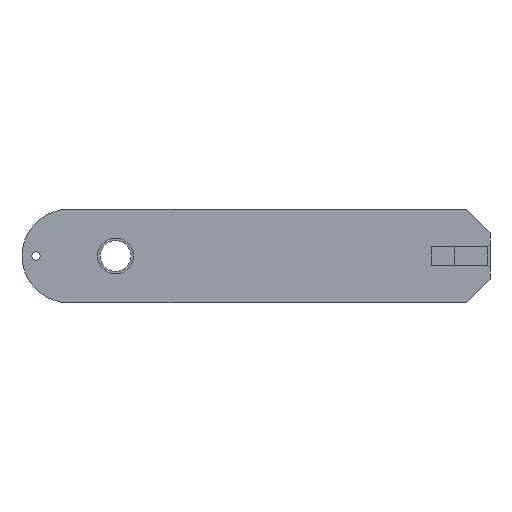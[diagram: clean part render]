
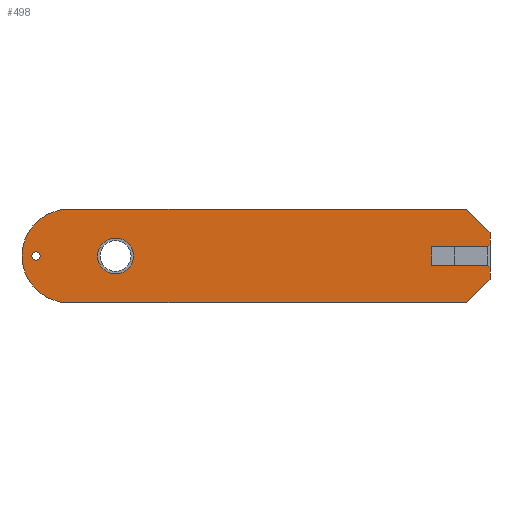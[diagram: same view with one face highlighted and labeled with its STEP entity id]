
A CAD part, front view. The second image highlights one B-rep face of the part: STEP entity #498.
In plain terms, the highlighted planar face has unit normal (0, -1, 0).
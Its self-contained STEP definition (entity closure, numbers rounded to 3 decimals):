
#22 = CARTESIAN_POINT ( 'NONE',  ( 90., 0., 20. ) ) ;
#38 = EDGE_CURVE ( 'NONE', #1693, #1271, #1903, .T. ) ;
#47 = VECTOR ( 'NONE', #243, 1000. ) ;
#56 = EDGE_CURVE ( 'NONE', #1518, #957, #1302, .T. ) ;
#72 = CARTESIAN_POINT ( 'NONE',  ( 75., 0., -4. ) ) ;
#87 = VERTEX_POINT ( 'NONE', #1773 ) ;
#90 = CARTESIAN_POINT ( 'NONE',  ( -60., 0., 0. ) ) ;
#104 = ORIENTED_EDGE ( 'NONE', *, *, #1515, .F. ) ;
#110 = VECTOR ( 'NONE', #1519, 1000. ) ;
#154 = EDGE_CURVE ( 'NONE', #672, #1311, #503, .T. ) ;
#167 = EDGE_CURVE ( 'NONE', #1152, #1898, #678, .T. ) ;
#172 = EDGE_LOOP ( 'NONE', ( #1912, #1774, #581, #330, #1681, #786, #1048, #1394, #192, #1688, #1105, #104, #496 ) ) ;
#182 = DIRECTION ( 'NONE',  ( -0.707, 0., 0.707 ) ) ;
#192 = ORIENTED_EDGE ( 'NONE', *, *, #591, .F. ) ;
#197 = AXIS2_PLACEMENT_3D ( 'NONE', #90, #818, #1850 ) ;
#206 = VECTOR ( 'NONE', #182, 1000. ) ;
#211 = LINE ( 'NONE', #742, #1046 ) ;
#239 = EDGE_CURVE ( 'NONE', #87, #1518, #681, .T. ) ;
#241 = AXIS2_PLACEMENT_3D ( 'NONE', #1374, #799, #941 ) ;
#243 = DIRECTION ( 'NONE',  ( -1., 0., 0. ) ) ;
#259 = DIRECTION ( 'NONE',  ( 0., 0., -1. ) ) ;
#269 = EDGE_CURVE ( 'NONE', #331, #1628, #1838, .T. ) ;
#271 = EDGE_LOOP ( 'NONE', ( #1258, #770 ) ) ;
#274 = CARTESIAN_POINT ( 'NONE',  ( 100., 0., -5. ) ) ;
#275 = DIRECTION ( 'NONE',  ( 0., 1., 0. ) ) ;
#290 = VERTEX_POINT ( 'NONE', #390 ) ;
#330 = ORIENTED_EDGE ( 'NONE', *, *, #901, .F. ) ;
#331 = VERTEX_POINT ( 'NONE', #848 ) ;
#390 = CARTESIAN_POINT ( 'NONE',  ( 100., 0., 5. ) ) ;
#427 = EDGE_CURVE ( 'NONE', #1628, #331, #1286, .T. ) ;
#440 = DIRECTION ( 'NONE',  ( 0., 0., 1. ) ) ;
#441 = EDGE_CURVE ( 'NONE', #708, #290, #1506, .T. ) ;
#445 = DIRECTION ( 'NONE',  ( 1., 0., 0. ) ) ;
#450 = VERTEX_POINT ( 'NONE', #1754 ) ;
#462 = CARTESIAN_POINT ( 'NONE',  ( -100., 0., 20. ) ) ;
#486 = CARTESIAN_POINT ( 'NONE',  ( 100., 0., 10. ) ) ;
#496 = ORIENTED_EDGE ( 'NONE', *, *, #167, .T. ) ;
#498 = ADVANCED_FACE ( 'NONE', ( #892, #1573, #1183 ), #1895, .F. ) ;
#503 = LINE ( 'NONE', #1083, #110 ) ;
#522 = DIRECTION ( 'NONE',  ( 0., 0., -1. ) ) ;
#541 = CARTESIAN_POINT ( 'NONE',  ( -100., 0., -20. ) ) ;
#581 = ORIENTED_EDGE ( 'NONE', *, *, #877, .F. ) ;
#589 = VECTOR ( 'NONE', #1014, 1000. ) ;
#591 = EDGE_CURVE ( 'NONE', #87, #628, #1000, .T. ) ;
#598 = DIRECTION ( 'NONE',  ( 0.707, 0., 0.707 ) ) ;
#628 = VERTEX_POINT ( 'NONE', #22 ) ;
#631 = ORIENTED_EDGE ( 'NONE', *, *, #1277, .F. ) ;
#636 = CIRCLE ( 'NONE', #1079, 7.65 ) ;
#672 = VERTEX_POINT ( 'NONE', #1367 ) ;
#678 = LINE ( 'NONE', #1473, #1397 ) ;
#680 = VECTOR ( 'NONE', #1094, 1000. ) ;
#681 = CIRCLE ( 'NONE', #241, 20. ) ;
#696 = CARTESIAN_POINT ( 'NONE',  ( -60., 0., -7.65 ) ) ;
#697 = CARTESIAN_POINT ( 'NONE',  ( -94., 0., 1.8 ) ) ;
#708 = VERTEX_POINT ( 'NONE', #486 ) ;
#729 = CARTESIAN_POINT ( 'NONE',  ( -94., 0., 0. ) ) ;
#734 = CARTESIAN_POINT ( 'NONE',  ( 100., 0., -5. ) ) ;
#742 = CARTESIAN_POINT ( 'NONE',  ( 100., 0., 10. ) ) ;
#770 = ORIENTED_EDGE ( 'NONE', *, *, #269, .T. ) ;
#784 = CIRCLE ( 'NONE', #197, 7.65 ) ;
#786 = ORIENTED_EDGE ( 'NONE', *, *, #1829, .T. ) ;
#787 = EDGE_LOOP ( 'NONE', ( #631, #1032 ) ) ;
#799 = DIRECTION ( 'NONE',  ( 0., -1., 0. ) ) ;
#818 = DIRECTION ( 'NONE',  ( 0., -1., 0. ) ) ;
#848 = CARTESIAN_POINT ( 'NONE',  ( -94., 0., -1.8 ) ) ;
#877 = EDGE_CURVE ( 'NONE', #1637, #1271, #1412, .T. ) ;
#884 = CARTESIAN_POINT ( 'NONE',  ( 0., 0., 0. ) ) ;
#892 = FACE_BOUND ( 'NONE', #271, .T. ) ;
#901 = EDGE_CURVE ( 'NONE', #1311, #1637, #1454, .T. ) ;
#941 = DIRECTION ( 'NONE',  ( 0., 0., 1. ) ) ;
#957 = VERTEX_POINT ( 'NONE', #978 ) ;
#964 = VERTEX_POINT ( 'NONE', #696 ) ;
#966 = CARTESIAN_POINT ( 'NONE',  ( 100., 0., -4. ) ) ;
#978 = CARTESIAN_POINT ( 'NONE',  ( -80., 0., -20. ) ) ;
#995 = AXIS2_PLACEMENT_3D ( 'NONE', #1250, #1565, #1418 ) ;
#1000 = LINE ( 'NONE', #462, #1742 ) ;
#1005 = AXIS2_PLACEMENT_3D ( 'NONE', #1186, #1024, #440 ) ;
#1014 = DIRECTION ( 'NONE',  ( 0., 0., -1. ) ) ;
#1024 = DIRECTION ( 'NONE',  ( 0., -1., 0. ) ) ;
#1025 = CARTESIAN_POINT ( 'NONE',  ( 90., 0., -20. ) ) ;
#1032 = ORIENTED_EDGE ( 'NONE', *, *, #1360, .F. ) ;
#1046 = VECTOR ( 'NONE', #1770, 1000. ) ;
#1048 = ORIENTED_EDGE ( 'NONE', *, *, #441, .F. ) ;
#1049 = CARTESIAN_POINT ( 'NONE',  ( 99., 0., 4. ) ) ;
#1076 = VECTOR ( 'NONE', #598, 1000. ) ;
#1079 = AXIS2_PLACEMENT_3D ( 'NONE', #1085, #1230, #1657 ) ;
#1080 = VECTOR ( 'NONE', #259, 1000. ) ;
#1083 = CARTESIAN_POINT ( 'NONE',  ( 100., 0., 4. ) ) ;
#1085 = CARTESIAN_POINT ( 'NONE',  ( -60., 0., 0. ) ) ;
#1094 = DIRECTION ( 'NONE',  ( 1., 0., 0. ) ) ;
#1105 = ORIENTED_EDGE ( 'NONE', *, *, #56, .T. ) ;
#1135 = CARTESIAN_POINT ( 'NONE',  ( 100., 0., -20. ) ) ;
#1150 = DIRECTION ( 'NONE',  ( 0., 1., 0. ) ) ;
#1152 = VERTEX_POINT ( 'NONE', #1025 ) ;
#1183 = FACE_OUTER_BOUND ( 'NONE', #172, .T. ) ;
#1186 = CARTESIAN_POINT ( 'NONE',  ( -80., 0., 0. ) ) ;
#1230 = DIRECTION ( 'NONE',  ( 0., -1., 0. ) ) ;
#1246 = LINE ( 'NONE', #1135, #1080 ) ;
#1250 = CARTESIAN_POINT ( 'NONE',  ( -94., 0., 0. ) ) ;
#1258 = ORIENTED_EDGE ( 'NONE', *, *, #427, .T. ) ;
#1271 = VERTEX_POINT ( 'NONE', #1660 ) ;
#1277 = EDGE_CURVE ( 'NONE', #964, #450, #636, .T. ) ;
#1286 = CIRCLE ( 'NONE', #1791, 1.8 ) ;
#1302 = CIRCLE ( 'NONE', #1005, 20. ) ;
#1305 = CARTESIAN_POINT ( 'NONE',  ( 75., 0., -4. ) ) ;
#1311 = VERTEX_POINT ( 'NONE', #1375 ) ;
#1360 = EDGE_CURVE ( 'NONE', #450, #964, #784, .T. ) ;
#1367 = CARTESIAN_POINT ( 'NONE',  ( 99., 0., 4. ) ) ;
#1374 = CARTESIAN_POINT ( 'NONE',  ( -80., 0., 0. ) ) ;
#1375 = CARTESIAN_POINT ( 'NONE',  ( 75., 0., 4. ) ) ;
#1379 = VECTOR ( 'NONE', #522, 1000. ) ;
#1394 = ORIENTED_EDGE ( 'NONE', *, *, #1902, .T. ) ;
#1397 = VECTOR ( 'NONE', #1642, 1000. ) ;
#1412 = LINE ( 'NONE', #966, #680 ) ;
#1418 = DIRECTION ( 'NONE',  ( 0., 0., 1. ) ) ;
#1454 = LINE ( 'NONE', #72, #1379 ) ;
#1473 = CARTESIAN_POINT ( 'NONE',  ( 90., 0., -20. ) ) ;
#1506 = LINE ( 'NONE', #1892, #589 ) ;
#1515 = EDGE_CURVE ( 'NONE', #1152, #957, #1679, .T. ) ;
#1518 = VERTEX_POINT ( 'NONE', #1875 ) ;
#1519 = DIRECTION ( 'NONE',  ( -1., 0., 0. ) ) ;
#1554 = LINE ( 'NONE', #1049, #1076 ) ;
#1565 = DIRECTION ( 'NONE',  ( 0., 1., 0. ) ) ;
#1573 = FACE_BOUND ( 'NONE', #787, .T. ) ;
#1582 = EDGE_CURVE ( 'NONE', #1693, #1898, #1246, .T. ) ;
#1602 = DIRECTION ( 'NONE',  ( 0., 0., 1. ) ) ;
#1625 = CARTESIAN_POINT ( 'NONE',  ( 100., 0., -10. ) ) ;
#1628 = VERTEX_POINT ( 'NONE', #697 ) ;
#1637 = VERTEX_POINT ( 'NONE', #1305 ) ;
#1642 = DIRECTION ( 'NONE',  ( 0.707, 0., 0.707 ) ) ;
#1657 = DIRECTION ( 'NONE',  ( 0., 0., -1. ) ) ;
#1660 = CARTESIAN_POINT ( 'NONE',  ( 99., 0., -4. ) ) ;
#1679 = LINE ( 'NONE', #541, #47 ) ;
#1681 = ORIENTED_EDGE ( 'NONE', *, *, #154, .F. ) ;
#1688 = ORIENTED_EDGE ( 'NONE', *, *, #239, .T. ) ;
#1693 = VERTEX_POINT ( 'NONE', #274 ) ;
#1736 = DIRECTION ( 'NONE',  ( 0., 0., 1. ) ) ;
#1742 = VECTOR ( 'NONE', #445, 1000. ) ;
#1751 = AXIS2_PLACEMENT_3D ( 'NONE', #884, #275, #1736 ) ;
#1754 = CARTESIAN_POINT ( 'NONE',  ( -60., 0., 7.65 ) ) ;
#1770 = DIRECTION ( 'NONE',  ( -0.707, 0., 0.707 ) ) ;
#1773 = CARTESIAN_POINT ( 'NONE',  ( -80., 0., 20. ) ) ;
#1774 = ORIENTED_EDGE ( 'NONE', *, *, #38, .T. ) ;
#1791 = AXIS2_PLACEMENT_3D ( 'NONE', #729, #1150, #1602 ) ;
#1829 = EDGE_CURVE ( 'NONE', #672, #290, #1554, .T. ) ;
#1838 = CIRCLE ( 'NONE', #995, 1.8 ) ;
#1850 = DIRECTION ( 'NONE',  ( 0., 0., -1. ) ) ;
#1875 = CARTESIAN_POINT ( 'NONE',  ( -100., 0., 0. ) ) ;
#1892 = CARTESIAN_POINT ( 'NONE',  ( 100., 0., -20. ) ) ;
#1895 = PLANE ( 'NONE',  #1751 ) ;
#1898 = VERTEX_POINT ( 'NONE', #1625 ) ;
#1902 = EDGE_CURVE ( 'NONE', #708, #628, #211, .T. ) ;
#1903 = LINE ( 'NONE', #734, #206 ) ;
#1912 = ORIENTED_EDGE ( 'NONE', *, *, #1582, .F. ) ;
